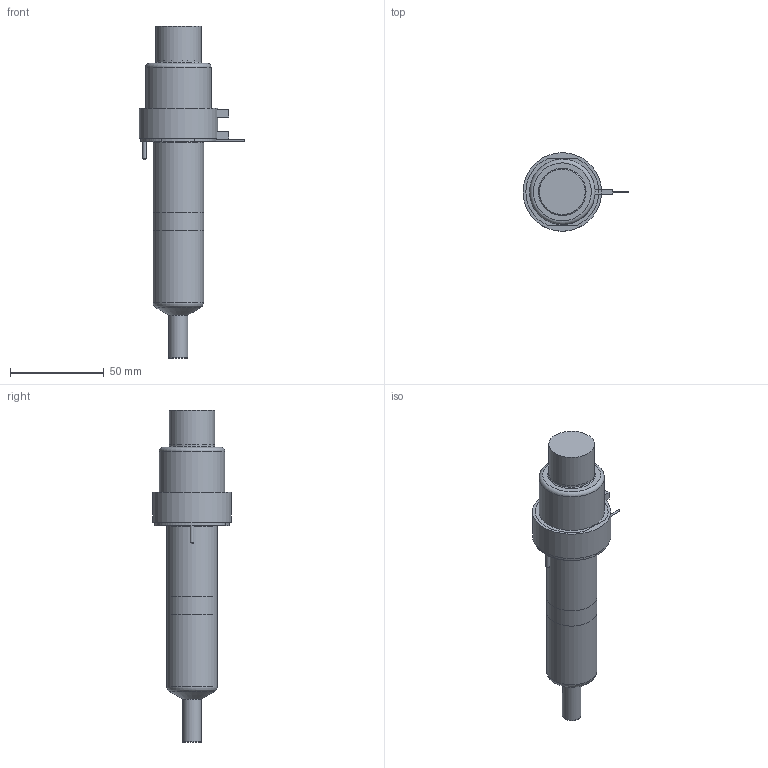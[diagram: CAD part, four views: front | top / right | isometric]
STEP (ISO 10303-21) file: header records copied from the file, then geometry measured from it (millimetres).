
FILE_DESCRIPTION(/* description */ (''),/* implementation_level */ '2;1');
FILE_NAME(/* name */ 'SXYCN13095P7U_200C_a',/* time_stamp */ '2016-03-07T09:53:53+13:00',/* author */ (''),/* organization */ (''),/* preprocessor_version */ 'ST-DEVELOPER v9',/* originating_system */ 'UGS - NX 4.0',/* authorisation */ '');
FILE_SCHEMA (('CONFIG_CONTROL_DESIGN'));
Length unit declared in the file: millimetre
Products named in the file (1): Matt0C2Fmxuj
Bounding box: 56.65 x 42 x 177.52 mm (x, y, z)
Volume: 191352.2 mm3; surface area: 35120 mm2
Topology: 7 solids, 7 shells, 91 faces, 175 edges, 112 vertices
Faces by surface type: plane 45, cylinder 29, torus 8, cone 7, bspline 1, sphere 1
Full cylindrical faces by diameter (mm): 1 x3, 1.2 x1, 2 x2, 4 x1, 6 x1, 9.61 x1, 9.995 x2, 12.6 x1, 22.2 x1, 24 x1, 24.4 x1, 27 x2, 31.8 x1, 35 x1, 40 x1, 42 x1
Entity records: 2230 total; most frequent: CARTESIAN_POINT 435, DIRECTION 378, ORIENTED_EDGE 266, AXIS2_PLACEMENT_3D 164, EDGE_LOOP 140, EDGE_CURVE 133, VERTEX_POINT 106, ADVANCED_FACE 91
